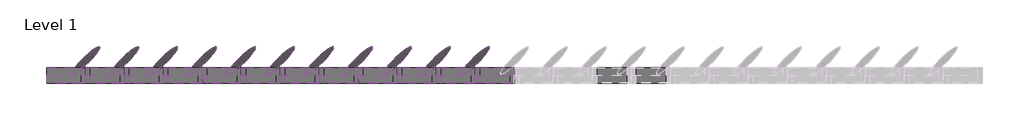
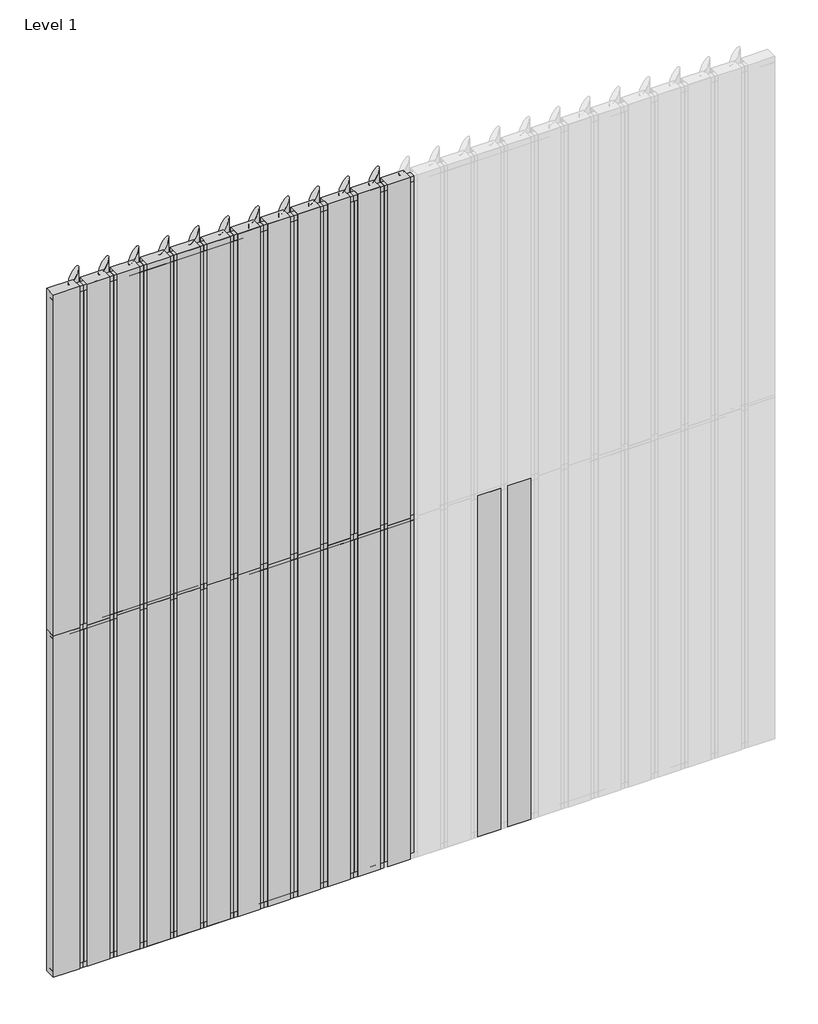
# One storey, part 1 of 2: 57 members, 50 plates.
"""IFC4 building model written with IfcOpenShell, lengths in millimetres."""

from ifc_helpers import new_model, si_unit, origin, place, context, project, spatial, transform, mapped, element, save
from components import rectangular_mullion_dafef153, rectangular_mullion_eeaea343, rectangular_mullion_b779000f, rectangular_mullion_552ac5bc, empty_system_panel_empty_c2e1ed41, empty_system_panel_empty_a27fa234, empty_system_panel_empty_93422e2e

model = new_model("IFC4")

# Units and contexts
model_context = context("Model", 3, world=origin())
ifc_project = project(units=[si_unit("LENGTHUNIT", "METRE", prefix="MILLI")], contexts=[model_context])

# Site, building, storey
site = spatial("IfcSite", under=ifc_project)
building = spatial("IfcBuilding", under=site)
storey = spatial("IfcBuildingStorey", under=building, Name="Level 1", Elevation=0.0)

# Members
placement = place(None, origin())
rectangular_mullion_shape = rectangular_mullion_dafef153(model_context)
element("IfcMember", 1, ObjectType="Rectangular Mullion : RSen_21_CWM_blade - 250 ellips - 45°_gen_duco projects", at=placement, inside=storey, context=model_context, shape_type="MappedRepresentation", body=[
    mapped(rectangular_mullion_shape, transform((2750.0, 3000.0, 0.0), x_axis=(-1.0, 0.0, 0.0), y_axis=(0.0, 1.0, 0.0), z_axis=(0.0, 0.0, -1.0))),
])
element("IfcMember", 2, ObjectType="Rectangular Mullion : RSen_21_CWM_blade - 250 ellips - 45°_gen_duco projects", at=placement, inside=storey, context=model_context, shape_type="MappedRepresentation", body=[
    mapped(rectangular_mullion_shape, transform((2500.0, 3000.0, 0.0), x_axis=(-1.0, 0.0, 0.0), y_axis=(0.0, 1.0, 0.0), z_axis=(0.0, 0.0, -1.0))),
])
element("IfcMember", 3, ObjectType="Rectangular Mullion : RSen_21_CWM_blade - 250 ellips - 45°_gen_duco projects", at=placement, inside=storey, context=model_context, shape_type="MappedRepresentation", body=[
    mapped(rectangular_mullion_shape, transform((2250.0, 3000.0, 0.0), x_axis=(-1.0, 0.0, 0.0), y_axis=(0.0, 1.0, 0.0), z_axis=(0.0, 0.0, -1.0))),
])
element("IfcMember", 4, ObjectType="Rectangular Mullion : RSen_21_CWM_blade - 250 ellips - 45°_gen_duco projects", at=placement, inside=storey, context=model_context, shape_type="MappedRepresentation", body=[
    mapped(rectangular_mullion_shape, transform((2000.0, 3000.0, 0.0), x_axis=(-1.0, 0.0, 0.0), y_axis=(0.0, 1.0, 0.0), z_axis=(0.0, 0.0, -1.0))),
])
element("IfcMember", 5, ObjectType="Rectangular Mullion : RSen_21_CWM_blade - 250 ellips - 45°_gen_duco projects", at=placement, inside=storey, context=model_context, shape_type="MappedRepresentation", body=[
    mapped(rectangular_mullion_shape, transform((1750.0, 3000.0, 0.0), x_axis=(-1.0, 0.0, 0.0), y_axis=(0.0, 1.0, 0.0), z_axis=(0.0, 0.0, -1.0))),
])
element("IfcMember", 6, ObjectType="Rectangular Mullion : RSen_21_CWM_blade - 250 ellips - 45°_gen_duco projects", at=placement, inside=storey, context=model_context, shape_type="MappedRepresentation", body=[
    mapped(rectangular_mullion_shape, transform((1500.0, 3000.0, 0.0), x_axis=(-1.0, 0.0, 0.0), y_axis=(0.0, 1.0, 0.0), z_axis=(0.0, 0.0, -1.0))),
])
element("IfcMember", 7, ObjectType="Rectangular Mullion : RSen_21_CWM_blade - 250 ellips - 45°_gen_duco projects", at=placement, inside=storey, context=model_context, shape_type="MappedRepresentation", body=[
    mapped(rectangular_mullion_shape, transform((1250.0, 3000.0, 0.0), x_axis=(-1.0, 0.0, 0.0), y_axis=(0.0, 1.0, 0.0), z_axis=(0.0, 0.0, -1.0))),
])
element("IfcMember", 8, ObjectType="Rectangular Mullion : RSen_21_CWM_blade - 250 ellips - 45°_gen_duco projects", at=placement, inside=storey, context=model_context, shape_type="MappedRepresentation", body=[
    mapped(rectangular_mullion_shape, transform((1000.0, 3000.0, 0.0), x_axis=(-1.0, 0.0, 0.0), y_axis=(0.0, 1.0, 0.0), z_axis=(0.0, 0.0, -1.0))),
])
element("IfcMember", 9, ObjectType="Rectangular Mullion : RSen_21_CWM_blade - 250 ellips - 45°_gen_duco projects", at=placement, inside=storey, context=model_context, shape_type="MappedRepresentation", body=[
    mapped(rectangular_mullion_shape, transform((750.0, 3000.0, 0.0), x_axis=(-1.0, 0.0, 0.0), y_axis=(0.0, 1.0, 0.0), z_axis=(0.0, 0.0, -1.0))),
])
element("IfcMember", 10, ObjectType="Rectangular Mullion : RSen_21_CWM_blade - 250 ellips - 45°_gen_duco projects", at=placement, inside=storey, context=model_context, shape_type="MappedRepresentation", body=[
    mapped(rectangular_mullion_shape, transform((500.0, 3000.0, 0.0), x_axis=(-1.0, 0.0, 0.0), y_axis=(0.0, 1.0, 0.0), z_axis=(0.0, 0.0, -1.0))),
])
element("IfcMember", 11, ObjectType="Rectangular Mullion : RSen_21_CWM_blade - 250 ellips - 45°_gen_duco projects", at=placement, inside=storey, context=model_context, shape_type="MappedRepresentation", body=[
    mapped(rectangular_mullion_shape, transform((250.0, 3000.0, 0.0), x_axis=(-1.0, 0.0, 0.0), y_axis=(0.0, 1.0, 0.0), z_axis=(0.0, 0.0, -1.0))),
])
element("IfcMember", 12, ObjectType="Rectangular Mullion : RSen_21_CWM_blade - 250 ellips - 45°_gen_duco projects", at=placement, inside=storey, context=model_context, shape_type="MappedRepresentation", body=[
    mapped(rectangular_mullion_shape, transform((2750.0, 3000.0, 3000.0), x_axis=(-1.0, 0.0, 0.0), y_axis=(0.0, 1.0, 0.0), z_axis=(0.0, 0.0, -1.0))),
])
element("IfcMember", 13, ObjectType="Rectangular Mullion : RSen_21_CWM_blade - 250 ellips - 45°_gen_duco projects", at=placement, inside=storey, context=model_context, shape_type="MappedRepresentation", body=[
    mapped(rectangular_mullion_shape, transform((2500.0, 3000.0, 3000.0), x_axis=(-1.0, 0.0, 0.0), y_axis=(0.0, 1.0, 0.0), z_axis=(0.0, 0.0, -1.0))),
])
element("IfcMember", 14, ObjectType="Rectangular Mullion : RSen_21_CWM_blade - 250 ellips - 45°_gen_duco projects", at=placement, inside=storey, context=model_context, shape_type="MappedRepresentation", body=[
    mapped(rectangular_mullion_shape, transform((2250.0, 3000.0, 3000.0), x_axis=(-1.0, 0.0, 0.0), y_axis=(0.0, 1.0, 0.0), z_axis=(0.0, 0.0, -1.0))),
])
element("IfcMember", 15, ObjectType="Rectangular Mullion : RSen_21_CWM_blade - 250 ellips - 45°_gen_duco projects", at=placement, inside=storey, context=model_context, shape_type="MappedRepresentation", body=[
    mapped(rectangular_mullion_shape, transform((2000.0, 3000.0, 3000.0), x_axis=(-1.0, 0.0, 0.0), y_axis=(0.0, 1.0, 0.0), z_axis=(0.0, 0.0, -1.0))),
])
element("IfcMember", 16, ObjectType="Rectangular Mullion : RSen_21_CWM_blade - 250 ellips - 45°_gen_duco projects", at=placement, inside=storey, context=model_context, shape_type="MappedRepresentation", body=[
    mapped(rectangular_mullion_shape, transform((1750.0, 3000.0, 3000.0), x_axis=(-1.0, 0.0, 0.0), y_axis=(0.0, 1.0, 0.0), z_axis=(0.0, 0.0, -1.0))),
])
element("IfcMember", 17, ObjectType="Rectangular Mullion : RSen_21_CWM_blade - 250 ellips - 45°_gen_duco projects", at=placement, inside=storey, context=model_context, shape_type="MappedRepresentation", body=[
    mapped(rectangular_mullion_shape, transform((1500.0, 3000.0, 3000.0), x_axis=(-1.0, 0.0, 0.0), y_axis=(0.0, 1.0, 0.0), z_axis=(0.0, 0.0, -1.0))),
])
element("IfcMember", 18, ObjectType="Rectangular Mullion : RSen_21_CWM_blade - 250 ellips - 45°_gen_duco projects", at=placement, inside=storey, context=model_context, shape_type="MappedRepresentation", body=[
    mapped(rectangular_mullion_shape, transform((1250.0, 3000.0, 3000.0), x_axis=(-1.0, 0.0, 0.0), y_axis=(0.0, 1.0, 0.0), z_axis=(0.0, 0.0, -1.0))),
])
element("IfcMember", 19, ObjectType="Rectangular Mullion : RSen_21_CWM_blade - 250 ellips - 45°_gen_duco projects", at=placement, inside=storey, context=model_context, shape_type="MappedRepresentation", body=[
    mapped(rectangular_mullion_shape, transform((1000.0, 3000.0, 3000.0), x_axis=(-1.0, 0.0, 0.0), y_axis=(0.0, 1.0, 0.0), z_axis=(0.0, 0.0, -1.0))),
])
element("IfcMember", 20, ObjectType="Rectangular Mullion : RSen_21_CWM_blade - 250 ellips - 45°_gen_duco projects", at=placement, inside=storey, context=model_context, shape_type="MappedRepresentation", body=[
    mapped(rectangular_mullion_shape, transform((750.0, 3000.0, 3000.0), x_axis=(-1.0, 0.0, 0.0), y_axis=(0.0, 1.0, 0.0), z_axis=(0.0, 0.0, -1.0))),
])
element("IfcMember", 21, ObjectType="Rectangular Mullion : RSen_21_CWM_blade - 250 ellips - 45°_gen_duco projects", at=placement, inside=storey, context=model_context, shape_type="MappedRepresentation", body=[
    mapped(rectangular_mullion_shape, transform((500.0, 3000.0, 3000.0), x_axis=(-1.0, 0.0, 0.0), y_axis=(0.0, 1.0, 0.0), z_axis=(0.0, 0.0, -1.0))),
])
element("IfcMember", 22, ObjectType="Rectangular Mullion : RSen_21_CWM_blade - 250 ellips - 45°_gen_duco projects", at=placement, inside=storey, context=model_context, shape_type="MappedRepresentation", body=[
    mapped(rectangular_mullion_shape, transform((250.0, 3000.0, 3000.0), x_axis=(-1.0, 0.0, 0.0), y_axis=(0.0, 1.0, 0.0), z_axis=(0.0, 0.0, -1.0))),
])
rectangular_mullion_2_shape = rectangular_mullion_eeaea343(model_context)
element("IfcMember", 23, ObjectType="Rectangular Mullion : RSen_21_CWM_support profile 50x50 - left_gen_duco projects", at=placement, inside=storey, context=model_context, shape_type="MappedRepresentation", body=[
    mapped(rectangular_mullion_2_shape, transform((0.0, 3000.0, 6000.0), x_axis=(0.0, 0.0, 1.0), y_axis=(0.0, 1.0, 0.0), z_axis=(-1.0, 0.0, 0.0))),
])
element("IfcMember", 24, ObjectType="Rectangular Mullion : RSen_21_CWM_support profile 50x50 - left_gen_duco projects", at=placement, inside=storey, context=model_context, shape_type="MappedRepresentation", body=[
    mapped(rectangular_mullion_2_shape, transform((2750.0, 3000.0, 6000.0), x_axis=(0.0, 0.0, 1.0), y_axis=(0.0, 1.0, 0.0), z_axis=(-1.0, 0.0, 0.0))),
])
element("IfcMember", 25, ObjectType="Rectangular Mullion : RSen_21_CWM_support profile 50x50 - left_gen_duco projects", at=placement, inside=storey, context=model_context, shape_type="MappedRepresentation", body=[
    mapped(rectangular_mullion_2_shape, transform((2500.0, 3000.0, 6000.0), x_axis=(0.0, 0.0, 1.0), y_axis=(0.0, 1.0, 0.0), z_axis=(-1.0, 0.0, 0.0))),
])
element("IfcMember", 26, ObjectType="Rectangular Mullion : RSen_21_CWM_support profile 50x50 - left_gen_duco projects", at=placement, inside=storey, context=model_context, shape_type="MappedRepresentation", body=[
    mapped(rectangular_mullion_2_shape, transform((2250.0, 3000.0, 6000.0), x_axis=(0.0, 0.0, 1.0), y_axis=(0.0, 1.0, 0.0), z_axis=(-1.0, 0.0, 0.0))),
])
element("IfcMember", 27, ObjectType="Rectangular Mullion : RSen_21_CWM_support profile 50x50 - left_gen_duco projects", at=placement, inside=storey, context=model_context, shape_type="MappedRepresentation", body=[
    mapped(rectangular_mullion_2_shape, transform((2000.0, 3000.0, 6000.0), x_axis=(0.0, 0.0, 1.0), y_axis=(0.0, 1.0, 0.0), z_axis=(-1.0, 0.0, 0.0))),
])
element("IfcMember", 28, ObjectType="Rectangular Mullion : RSen_21_CWM_support profile 50x50 - left_gen_duco projects", at=placement, inside=storey, context=model_context, shape_type="MappedRepresentation", body=[
    mapped(rectangular_mullion_2_shape, transform((1750.0, 3000.0, 6000.0), x_axis=(0.0, 0.0, 1.0), y_axis=(0.0, 1.0, 0.0), z_axis=(-1.0, 0.0, 0.0))),
])
element("IfcMember", 29, ObjectType="Rectangular Mullion : RSen_21_CWM_support profile 50x50 - left_gen_duco projects", at=placement, inside=storey, context=model_context, shape_type="MappedRepresentation", body=[
    mapped(rectangular_mullion_2_shape, transform((1500.0, 3000.0, 6000.0), x_axis=(0.0, 0.0, 1.0), y_axis=(0.0, 1.0, 0.0), z_axis=(-1.0, 0.0, 0.0))),
])
element("IfcMember", 30, ObjectType="Rectangular Mullion : RSen_21_CWM_support profile 50x50 - left_gen_duco projects", at=placement, inside=storey, context=model_context, shape_type="MappedRepresentation", body=[
    mapped(rectangular_mullion_2_shape, transform((1250.0, 3000.0, 6000.0), x_axis=(0.0, 0.0, 1.0), y_axis=(0.0, 1.0, 0.0), z_axis=(-1.0, 0.0, 0.0))),
])
element("IfcMember", 31, ObjectType="Rectangular Mullion : RSen_21_CWM_support profile 50x50 - left_gen_duco projects", at=placement, inside=storey, context=model_context, shape_type="MappedRepresentation", body=[
    mapped(rectangular_mullion_2_shape, transform((1000.0, 3000.0, 6000.0), x_axis=(0.0, 0.0, 1.0), y_axis=(0.0, 1.0, 0.0), z_axis=(-1.0, 0.0, 0.0))),
])
element("IfcMember", 32, ObjectType="Rectangular Mullion : RSen_21_CWM_support profile 50x50 - left_gen_duco projects", at=placement, inside=storey, context=model_context, shape_type="MappedRepresentation", body=[
    mapped(rectangular_mullion_2_shape, transform((750.0, 3000.0, 6000.0), x_axis=(0.0, 0.0, 1.0), y_axis=(0.0, 1.0, 0.0), z_axis=(-1.0, 0.0, 0.0))),
])
element("IfcMember", 33, ObjectType="Rectangular Mullion : RSen_21_CWM_support profile 50x50 - left_gen_duco projects", at=placement, inside=storey, context=model_context, shape_type="MappedRepresentation", body=[
    mapped(rectangular_mullion_2_shape, transform((500.0, 3000.0, 6000.0), x_axis=(0.0, 0.0, 1.0), y_axis=(0.0, 1.0, 0.0), z_axis=(-1.0, 0.0, 0.0))),
])
element("IfcMember", 34, ObjectType="Rectangular Mullion : RSen_21_CWM_support profile 50x50 - left_gen_duco projects", at=placement, inside=storey, context=model_context, shape_type="MappedRepresentation", body=[
    mapped(rectangular_mullion_2_shape, transform((250.0, 3000.0, 6000.0), x_axis=(0.0, 0.0, 1.0), y_axis=(0.0, 1.0, 0.0), z_axis=(-1.0, 0.0, 0.0))),
])
rectangular_mullion_3_shape = rectangular_mullion_b779000f(model_context)
element("IfcMember", 35, ObjectType="Rectangular Mullion : RSen_21_CWM_support profile 50x50 - right_gen_duco projects", at=placement, inside=storey, context=model_context, shape_type="MappedRepresentation", body=[
    mapped(rectangular_mullion_3_shape, transform((2750.0, 3000.0, 0.0), x_axis=(0.0, 0.0, -1.0), y_axis=(0.0, 1.0, 0.0), z_axis=(1.0, 0.0, 0.0))),
])
element("IfcMember", 36, ObjectType="Rectangular Mullion : RSen_21_CWM_support profile 50x50 - right_gen_duco projects", at=placement, inside=storey, context=model_context, shape_type="MappedRepresentation", body=[
    mapped(rectangular_mullion_3_shape, transform((2500.0, 3000.0, 0.0), x_axis=(0.0, 0.0, -1.0), y_axis=(0.0, 1.0, 0.0), z_axis=(1.0, 0.0, 0.0))),
])
element("IfcMember", 37, ObjectType="Rectangular Mullion : RSen_21_CWM_support profile 50x50 - right_gen_duco projects", at=placement, inside=storey, context=model_context, shape_type="MappedRepresentation", body=[
    mapped(rectangular_mullion_3_shape, transform((2250.0, 3000.0, 0.0), x_axis=(0.0, 0.0, -1.0), y_axis=(0.0, 1.0, 0.0), z_axis=(1.0, 0.0, 0.0))),
])
element("IfcMember", 38, ObjectType="Rectangular Mullion : RSen_21_CWM_support profile 50x50 - right_gen_duco projects", at=placement, inside=storey, context=model_context, shape_type="MappedRepresentation", body=[
    mapped(rectangular_mullion_3_shape, transform((2000.0, 3000.0, 0.0), x_axis=(0.0, 0.0, -1.0), y_axis=(0.0, 1.0, 0.0), z_axis=(1.0, 0.0, 0.0))),
])
element("IfcMember", 39, ObjectType="Rectangular Mullion : RSen_21_CWM_support profile 50x50 - right_gen_duco projects", at=placement, inside=storey, context=model_context, shape_type="MappedRepresentation", body=[
    mapped(rectangular_mullion_3_shape, transform((1750.0, 3000.0, 0.0), x_axis=(0.0, 0.0, -1.0), y_axis=(0.0, 1.0, 0.0), z_axis=(1.0, 0.0, 0.0))),
])
element("IfcMember", 40, ObjectType="Rectangular Mullion : RSen_21_CWM_support profile 50x50 - right_gen_duco projects", at=placement, inside=storey, context=model_context, shape_type="MappedRepresentation", body=[
    mapped(rectangular_mullion_3_shape, transform((1500.0, 3000.0, 0.0), x_axis=(0.0, 0.0, -1.0), y_axis=(0.0, 1.0, 0.0), z_axis=(1.0, 0.0, 0.0))),
])
element("IfcMember", 41, ObjectType="Rectangular Mullion : RSen_21_CWM_support profile 50x50 - right_gen_duco projects", at=placement, inside=storey, context=model_context, shape_type="MappedRepresentation", body=[
    mapped(rectangular_mullion_3_shape, transform((1250.0, 3000.0, 0.0), x_axis=(0.0, 0.0, -1.0), y_axis=(0.0, 1.0, 0.0), z_axis=(1.0, 0.0, 0.0))),
])
element("IfcMember", 42, ObjectType="Rectangular Mullion : RSen_21_CWM_support profile 50x50 - right_gen_duco projects", at=placement, inside=storey, context=model_context, shape_type="MappedRepresentation", body=[
    mapped(rectangular_mullion_3_shape, transform((1000.0, 3000.0, 0.0), x_axis=(0.0, 0.0, -1.0), y_axis=(0.0, 1.0, 0.0), z_axis=(1.0, 0.0, 0.0))),
])
element("IfcMember", 43, ObjectType="Rectangular Mullion : RSen_21_CWM_support profile 50x50 - right_gen_duco projects", at=placement, inside=storey, context=model_context, shape_type="MappedRepresentation", body=[
    mapped(rectangular_mullion_3_shape, transform((750.0, 3000.0, 0.0), x_axis=(0.0, 0.0, -1.0), y_axis=(0.0, 1.0, 0.0), z_axis=(1.0, 0.0, 0.0))),
])
element("IfcMember", 44, ObjectType="Rectangular Mullion : RSen_21_CWM_support profile 50x50 - right_gen_duco projects", at=placement, inside=storey, context=model_context, shape_type="MappedRepresentation", body=[
    mapped(rectangular_mullion_3_shape, transform((500.0, 3000.0, 0.0), x_axis=(0.0, 0.0, -1.0), y_axis=(0.0, 1.0, 0.0), z_axis=(1.0, 0.0, 0.0))),
])
element("IfcMember", 45, ObjectType="Rectangular Mullion : RSen_21_CWM_support profile 50x50 - right_gen_duco projects", at=placement, inside=storey, context=model_context, shape_type="MappedRepresentation", body=[
    mapped(rectangular_mullion_3_shape, transform((250.0, 3000.0, 0.0), x_axis=(0.0, 0.0, -1.0), y_axis=(0.0, 1.0, 0.0), z_axis=(1.0, 0.0, 0.0))),
])
rectangular_mullion_4_shape = rectangular_mullion_552ac5bc(model_context)
element("IfcMember", 46, ObjectType="Rectangular Mullion : RSen_21_CWM_support profile 50x50_gen_duco projects", at=placement, inside=storey, context=model_context, shape_type="MappedRepresentation", body=[
    mapped(rectangular_mullion_4_shape, transform((2750.0, 3000.0, 3000.0), x_axis=(0.0, 0.0, 1.0), y_axis=(0.0, 1.0, 0.0), z_axis=(-1.0, 0.0, 0.0))),
])
element("IfcMember", 47, ObjectType="Rectangular Mullion : RSen_21_CWM_support profile 50x50_gen_duco projects", at=placement, inside=storey, context=model_context, shape_type="MappedRepresentation", body=[
    mapped(rectangular_mullion_4_shape, transform((2500.0, 3000.0, 3000.0), x_axis=(0.0, 0.0, 1.0), y_axis=(0.0, 1.0, 0.0), z_axis=(-1.0, 0.0, 0.0))),
])
element("IfcMember", 48, ObjectType="Rectangular Mullion : RSen_21_CWM_support profile 50x50_gen_duco projects", at=placement, inside=storey, context=model_context, shape_type="MappedRepresentation", body=[
    mapped(rectangular_mullion_4_shape, transform((2250.0, 3000.0, 3000.0), x_axis=(0.0, 0.0, 1.0), y_axis=(0.0, 1.0, 0.0), z_axis=(-1.0, 0.0, 0.0))),
])
element("IfcMember", 49, ObjectType="Rectangular Mullion : RSen_21_CWM_support profile 50x50_gen_duco projects", at=placement, inside=storey, context=model_context, shape_type="MappedRepresentation", body=[
    mapped(rectangular_mullion_4_shape, transform((2000.0, 3000.0, 3000.0), x_axis=(0.0, 0.0, 1.0), y_axis=(0.0, 1.0, 0.0), z_axis=(-1.0, 0.0, 0.0))),
])
element("IfcMember", 50, ObjectType="Rectangular Mullion : RSen_21_CWM_support profile 50x50_gen_duco projects", at=placement, inside=storey, context=model_context, shape_type="MappedRepresentation", body=[
    mapped(rectangular_mullion_4_shape, transform((1750.0, 3000.0, 3000.0), x_axis=(0.0, 0.0, 1.0), y_axis=(0.0, 1.0, 0.0), z_axis=(-1.0, 0.0, 0.0))),
])
element("IfcMember", 51, ObjectType="Rectangular Mullion : RSen_21_CWM_support profile 50x50_gen_duco projects", at=placement, inside=storey, context=model_context, shape_type="MappedRepresentation", body=[
    mapped(rectangular_mullion_4_shape, transform((1500.0, 3000.0, 3000.0), x_axis=(0.0, 0.0, 1.0), y_axis=(0.0, 1.0, 0.0), z_axis=(-1.0, 0.0, 0.0))),
])
element("IfcMember", 52, ObjectType="Rectangular Mullion : RSen_21_CWM_support profile 50x50_gen_duco projects", at=placement, inside=storey, context=model_context, shape_type="MappedRepresentation", body=[
    mapped(rectangular_mullion_4_shape, transform((1250.0, 3000.0, 3000.0), x_axis=(0.0, 0.0, 1.0), y_axis=(0.0, 1.0, 0.0), z_axis=(-1.0, 0.0, 0.0))),
])
element("IfcMember", 53, ObjectType="Rectangular Mullion : RSen_21_CWM_support profile 50x50_gen_duco projects", at=placement, inside=storey, context=model_context, shape_type="MappedRepresentation", body=[
    mapped(rectangular_mullion_4_shape, transform((1000.0, 3000.0, 3000.0), x_axis=(0.0, 0.0, 1.0), y_axis=(0.0, 1.0, 0.0), z_axis=(-1.0, 0.0, 0.0))),
])
element("IfcMember", 54, ObjectType="Rectangular Mullion : RSen_21_CWM_support profile 50x50_gen_duco projects", at=placement, inside=storey, context=model_context, shape_type="MappedRepresentation", body=[
    mapped(rectangular_mullion_4_shape, transform((750.0, 3000.0, 3000.0), x_axis=(0.0, 0.0, 1.0), y_axis=(0.0, 1.0, 0.0), z_axis=(-1.0, 0.0, 0.0))),
])
element("IfcMember", 55, ObjectType="Rectangular Mullion : RSen_21_CWM_support profile 50x50_gen_duco projects", at=placement, inside=storey, context=model_context, shape_type="MappedRepresentation", body=[
    mapped(rectangular_mullion_4_shape, transform((500.0, 3000.0, 3000.0), x_axis=(0.0, 0.0, 1.0), y_axis=(0.0, 1.0, 0.0), z_axis=(-1.0, 0.0, 0.0))),
])
element("IfcMember", 56, ObjectType="Rectangular Mullion : RSen_21_CWM_support profile 50x50_gen_duco projects", at=placement, inside=storey, context=model_context, shape_type="MappedRepresentation", body=[
    mapped(rectangular_mullion_4_shape, transform((250.0, 3000.0, 3000.0), x_axis=(0.0, 0.0, 1.0), y_axis=(0.0, 1.0, 0.0), z_axis=(-1.0, 0.0, 0.0))),
])
element("IfcMember", 57, ObjectType="Rectangular Mullion : RSen_21_CWM_support profile 50x50_gen_duco projects", at=placement, inside=storey, context=model_context, shape_type="MappedRepresentation", body=[
    mapped(rectangular_mullion_4_shape, transform((0.0, 3000.0, 3000.0), x_axis=(0.0, 0.0, 1.0), y_axis=(0.0, 1.0, 0.0), z_axis=(-1.0, 0.0, 0.0))),
])

# Plates
empty_system_panel_empty_shape = empty_system_panel_empty_c2e1ed41(model_context)
element("IfcPlate", 58, ObjectType="Empty System Panel : Empty", at=placement, inside=storey, context=model_context, shape_type="MappedRepresentation", body=[
    mapped(empty_system_panel_empty_shape, transform((109.6204275, 3000.0, 0.0), x_axis=(-1.0, 0.0, 0.0), y_axis=(0.0, -1.0, 0.0), z_axis=(0.0, 0.0, 1.0))),
])
element("IfcPlate", 59, ObjectType="Empty System Panel : Empty", at=placement, inside=storey, context=model_context, shape_type="MappedRepresentation", body=[
    mapped(empty_system_panel_empty_shape, transform((109.6204275, 3000.0, 3000.0), x_axis=(-1.0, 0.0, 0.0), y_axis=(0.0, -1.0, 0.0), z_axis=(0.0, 0.0, 1.0))),
])
empty_system_panel_empty_2_shape = empty_system_panel_empty_a27fa234(model_context)
element("IfcPlate", 60, ObjectType="Empty System Panel : Empty", at=placement, inside=storey, context=model_context, shape_type="MappedRepresentation", body=[
    mapped(empty_system_panel_empty_2_shape, transform((3875.0, 3000.0, 0.0), x_axis=(-1.0, 0.0, 0.0), y_axis=(0.0, -1.0, 0.0), z_axis=(0.0, 0.0, 1.0))),
])
element("IfcPlate", 61, ObjectType="Empty System Panel : Empty", at=placement, inside=storey, context=model_context, shape_type="MappedRepresentation", body=[
    mapped(empty_system_panel_empty_2_shape, transform((3625.0, 3000.0, 0.0), x_axis=(-1.0, 0.0, 0.0), y_axis=(0.0, -1.0, 0.0), z_axis=(0.0, 0.0, 1.0))),
])
element("IfcPlate", 62, ObjectType="Empty System Panel : Empty", at=placement, inside=storey, context=model_context, shape_type="MappedRepresentation", body=[
    mapped(empty_system_panel_empty_2_shape, transform((2875.0, 3000.0, 0.0), x_axis=(-1.0, 0.0, 0.0), y_axis=(0.0, -1.0, 0.0), z_axis=(0.0, 0.0, 1.0))),
])
element("IfcPlate", 63, ObjectType="Empty System Panel : Empty", at=placement, inside=storey, context=model_context, shape_type="MappedRepresentation", body=[
    mapped(empty_system_panel_empty_2_shape, transform((2625.0, 3000.0, 0.0), x_axis=(-1.0, 0.0, 0.0), y_axis=(0.0, -1.0, 0.0), z_axis=(0.0, 0.0, 1.0))),
])
element("IfcPlate", 64, ObjectType="Empty System Panel : Empty", at=placement, inside=storey, context=model_context, shape_type="MappedRepresentation", body=[
    mapped(empty_system_panel_empty_2_shape, transform((2375.0, 3000.0, 0.0), x_axis=(-1.0, 0.0, 0.0), y_axis=(0.0, -1.0, 0.0), z_axis=(0.0, 0.0, 1.0))),
])
element("IfcPlate", 65, ObjectType="Empty System Panel : Empty", at=placement, inside=storey, context=model_context, shape_type="MappedRepresentation", body=[
    mapped(empty_system_panel_empty_2_shape, transform((2125.0, 3000.0, 0.0), x_axis=(-1.0, 0.0, 0.0), y_axis=(0.0, -1.0, 0.0), z_axis=(0.0, 0.0, 1.0))),
])
element("IfcPlate", 66, ObjectType="Empty System Panel : Empty", at=placement, inside=storey, context=model_context, shape_type="MappedRepresentation", body=[
    mapped(empty_system_panel_empty_2_shape, transform((1875.0, 3000.0, 0.0), x_axis=(-1.0, 0.0, 0.0), y_axis=(0.0, -1.0, 0.0), z_axis=(0.0, 0.0, 1.0))),
])
element("IfcPlate", 67, ObjectType="Empty System Panel : Empty", at=placement, inside=storey, context=model_context, shape_type="MappedRepresentation", body=[
    mapped(empty_system_panel_empty_2_shape, transform((1625.0, 3000.0, 0.0), x_axis=(-1.0, 0.0, 0.0), y_axis=(0.0, -1.0, 0.0), z_axis=(0.0, 0.0, 1.0))),
])
element("IfcPlate", 68, ObjectType="Empty System Panel : Empty", at=placement, inside=storey, context=model_context, shape_type="MappedRepresentation", body=[
    mapped(empty_system_panel_empty_2_shape, transform((1375.0, 3000.0, 0.0), x_axis=(-1.0, 0.0, 0.0), y_axis=(0.0, -1.0, 0.0), z_axis=(0.0, 0.0, 1.0))),
])
element("IfcPlate", 69, ObjectType="Empty System Panel : Empty", at=placement, inside=storey, context=model_context, shape_type="MappedRepresentation", body=[
    mapped(empty_system_panel_empty_2_shape, transform((1125.0, 3000.0, 0.0), x_axis=(-1.0, 0.0, 0.0), y_axis=(0.0, -1.0, 0.0), z_axis=(0.0, 0.0, 1.0))),
])
element("IfcPlate", 70, ObjectType="Empty System Panel : Empty", at=placement, inside=storey, context=model_context, shape_type="MappedRepresentation", body=[
    mapped(empty_system_panel_empty_2_shape, transform((875.0, 3000.0, 0.0), x_axis=(-1.0, 0.0, 0.0), y_axis=(0.0, -1.0, 0.0), z_axis=(0.0, 0.0, 1.0))),
])
element("IfcPlate", 71, ObjectType="Empty System Panel : Empty", at=placement, inside=storey, context=model_context, shape_type="MappedRepresentation", body=[
    mapped(empty_system_panel_empty_2_shape, transform((625.0, 3000.0, 0.0), x_axis=(-1.0, 0.0, 0.0), y_axis=(0.0, -1.0, 0.0), z_axis=(0.0, 0.0, 1.0))),
])
element("IfcPlate", 72, ObjectType="Empty System Panel : Empty", at=placement, inside=storey, context=model_context, shape_type="MappedRepresentation", body=[
    mapped(empty_system_panel_empty_2_shape, transform((375.0, 3000.0, 0.0), x_axis=(-1.0, 0.0, 0.0), y_axis=(0.0, -1.0, 0.0), z_axis=(0.0, 0.0, 1.0))),
])
element("IfcPlate", 73, ObjectType="Empty System Panel : Empty", at=placement, inside=storey, context=model_context, shape_type="MappedRepresentation", body=[
    mapped(empty_system_panel_empty_2_shape, transform((2875.0, 3000.0, 3000.0), x_axis=(-1.0, 0.0, 0.0), y_axis=(0.0, -1.0, 0.0), z_axis=(0.0, 0.0, 1.0))),
])
element("IfcPlate", 74, ObjectType="Empty System Panel : Empty", at=placement, inside=storey, context=model_context, shape_type="MappedRepresentation", body=[
    mapped(empty_system_panel_empty_2_shape, transform((2625.0, 3000.0, 3000.0), x_axis=(-1.0, 0.0, 0.0), y_axis=(0.0, -1.0, 0.0), z_axis=(0.0, 0.0, 1.0))),
])
element("IfcPlate", 75, ObjectType="Empty System Panel : Empty", at=placement, inside=storey, context=model_context, shape_type="MappedRepresentation", body=[
    mapped(empty_system_panel_empty_2_shape, transform((2375.0, 3000.0, 3000.0), x_axis=(-1.0, 0.0, 0.0), y_axis=(0.0, -1.0, 0.0), z_axis=(0.0, 0.0, 1.0))),
])
element("IfcPlate", 76, ObjectType="Empty System Panel : Empty", at=placement, inside=storey, context=model_context, shape_type="MappedRepresentation", body=[
    mapped(empty_system_panel_empty_2_shape, transform((2125.0, 3000.0, 3000.0), x_axis=(-1.0, 0.0, 0.0), y_axis=(0.0, -1.0, 0.0), z_axis=(0.0, 0.0, 1.0))),
])
element("IfcPlate", 77, ObjectType="Empty System Panel : Empty", at=placement, inside=storey, context=model_context, shape_type="MappedRepresentation", body=[
    mapped(empty_system_panel_empty_2_shape, transform((1875.0, 3000.0, 3000.0), x_axis=(-1.0, 0.0, 0.0), y_axis=(0.0, -1.0, 0.0), z_axis=(0.0, 0.0, 1.0))),
])
element("IfcPlate", 78, ObjectType="Empty System Panel : Empty", at=placement, inside=storey, context=model_context, shape_type="MappedRepresentation", body=[
    mapped(empty_system_panel_empty_2_shape, transform((1625.0, 3000.0, 3000.0), x_axis=(-1.0, 0.0, 0.0), y_axis=(0.0, -1.0, 0.0), z_axis=(0.0, 0.0, 1.0))),
])
element("IfcPlate", 79, ObjectType="Empty System Panel : Empty", at=placement, inside=storey, context=model_context, shape_type="MappedRepresentation", body=[
    mapped(empty_system_panel_empty_2_shape, transform((1375.0, 3000.0, 3000.0), x_axis=(-1.0, 0.0, 0.0), y_axis=(0.0, -1.0, 0.0), z_axis=(0.0, 0.0, 1.0))),
])
element("IfcPlate", 80, ObjectType="Empty System Panel : Empty", at=placement, inside=storey, context=model_context, shape_type="MappedRepresentation", body=[
    mapped(empty_system_panel_empty_2_shape, transform((1125.0, 3000.0, 3000.0), x_axis=(-1.0, 0.0, 0.0), y_axis=(0.0, -1.0, 0.0), z_axis=(0.0, 0.0, 1.0))),
])
element("IfcPlate", 81, ObjectType="Empty System Panel : Empty", at=placement, inside=storey, context=model_context, shape_type="MappedRepresentation", body=[
    mapped(empty_system_panel_empty_2_shape, transform((875.0, 3000.0, 3000.0), x_axis=(-1.0, 0.0, 0.0), y_axis=(0.0, -1.0, 0.0), z_axis=(0.0, 0.0, 1.0))),
])
element("IfcPlate", 82, ObjectType="Empty System Panel : Empty", at=placement, inside=storey, context=model_context, shape_type="MappedRepresentation", body=[
    mapped(empty_system_panel_empty_2_shape, transform((625.0, 3000.0, 3000.0), x_axis=(-1.0, 0.0, 0.0), y_axis=(0.0, -1.0, 0.0), z_axis=(0.0, 0.0, 1.0))),
])
element("IfcPlate", 83, ObjectType="Empty System Panel : Empty", at=placement, inside=storey, context=model_context, shape_type="MappedRepresentation", body=[
    mapped(empty_system_panel_empty_2_shape, transform((375.0, 3000.0, 3000.0), x_axis=(-1.0, 0.0, 0.0), y_axis=(0.0, -1.0, 0.0), z_axis=(0.0, 0.0, 1.0))),
])
empty_system_panel_empty_3_shape = empty_system_panel_empty_93422e2e(model_context)
element("IfcPlate", 84, ObjectType="Empty System Panel : Empty", at=placement, inside=storey, context=model_context, shape_type="MappedRepresentation", body=[
    mapped(empty_system_panel_empty_3_shape, transform((2875.0, 3000.0, 50.0), x_axis=(-1.0, 0.0, 0.0), y_axis=(0.0, -1.0, 0.0), z_axis=(0.0, 0.0, 1.0))),
])
element("IfcPlate", 85, ObjectType="Empty System Panel : Empty", at=placement, inside=storey, context=model_context, shape_type="MappedRepresentation", body=[
    mapped(empty_system_panel_empty_3_shape, transform((2625.0, 3000.0, 50.0), x_axis=(-1.0, 0.0, 0.0), y_axis=(0.0, -1.0, 0.0), z_axis=(0.0, 0.0, 1.0))),
])
element("IfcPlate", 86, ObjectType="Empty System Panel : Empty", at=placement, inside=storey, context=model_context, shape_type="MappedRepresentation", body=[
    mapped(empty_system_panel_empty_3_shape, transform((2375.0, 3000.0, 50.0), x_axis=(-1.0, 0.0, 0.0), y_axis=(0.0, -1.0, 0.0), z_axis=(0.0, 0.0, 1.0))),
])
element("IfcPlate", 87, ObjectType="Empty System Panel : Empty", at=placement, inside=storey, context=model_context, shape_type="MappedRepresentation", body=[
    mapped(empty_system_panel_empty_3_shape, transform((2125.0, 3000.0, 50.0), x_axis=(-1.0, 0.0, 0.0), y_axis=(0.0, -1.0, 0.0), z_axis=(0.0, 0.0, 1.0))),
])
element("IfcPlate", 88, ObjectType="Empty System Panel : Empty", at=placement, inside=storey, context=model_context, shape_type="MappedRepresentation", body=[
    mapped(empty_system_panel_empty_3_shape, transform((1875.0, 3000.0, 50.0), x_axis=(-1.0, 0.0, 0.0), y_axis=(0.0, -1.0, 0.0), z_axis=(0.0, 0.0, 1.0))),
])
element("IfcPlate", 89, ObjectType="Empty System Panel : Empty", at=placement, inside=storey, context=model_context, shape_type="MappedRepresentation", body=[
    mapped(empty_system_panel_empty_3_shape, transform((1625.0, 3000.0, 50.0), x_axis=(-1.0, 0.0, 0.0), y_axis=(0.0, -1.0, 0.0), z_axis=(0.0, 0.0, 1.0))),
])
element("IfcPlate", 90, ObjectType="Empty System Panel : Empty", at=placement, inside=storey, context=model_context, shape_type="MappedRepresentation", body=[
    mapped(empty_system_panel_empty_3_shape, transform((1375.0, 3000.0, 50.0), x_axis=(-1.0, 0.0, 0.0), y_axis=(0.0, -1.0, 0.0), z_axis=(0.0, 0.0, 1.0))),
])
element("IfcPlate", 91, ObjectType="Empty System Panel : Empty", at=placement, inside=storey, context=model_context, shape_type="MappedRepresentation", body=[
    mapped(empty_system_panel_empty_3_shape, transform((1125.0, 3000.0, 50.0), x_axis=(-1.0, 0.0, 0.0), y_axis=(0.0, -1.0, 0.0), z_axis=(0.0, 0.0, 1.0))),
])
element("IfcPlate", 92, ObjectType="Empty System Panel : Empty", at=placement, inside=storey, context=model_context, shape_type="MappedRepresentation", body=[
    mapped(empty_system_panel_empty_3_shape, transform((875.0, 3000.0, 50.0), x_axis=(-1.0, 0.0, 0.0), y_axis=(0.0, -1.0, 0.0), z_axis=(0.0, 0.0, 1.0))),
])
element("IfcPlate", 93, ObjectType="Empty System Panel : Empty", at=placement, inside=storey, context=model_context, shape_type="MappedRepresentation", body=[
    mapped(empty_system_panel_empty_3_shape, transform((625.0, 3000.0, 50.0), x_axis=(-1.0, 0.0, 0.0), y_axis=(0.0, -1.0, 0.0), z_axis=(0.0, 0.0, 1.0))),
])
element("IfcPlate", 94, ObjectType="Empty System Panel : Empty", at=placement, inside=storey, context=model_context, shape_type="MappedRepresentation", body=[
    mapped(empty_system_panel_empty_3_shape, transform((375.0, 3000.0, 50.0), x_axis=(-1.0, 0.0, 0.0), y_axis=(0.0, -1.0, 0.0), z_axis=(0.0, 0.0, 1.0))),
])
element("IfcPlate", 95, ObjectType="Empty System Panel : Empty", at=placement, inside=storey, context=model_context, shape_type="MappedRepresentation", body=[
    mapped(empty_system_panel_empty_3_shape, transform((125.0, 3000.0, 50.0), x_axis=(-1.0, 0.0, 0.0), y_axis=(0.0, -1.0, 0.0), z_axis=(0.0, 0.0, 1.0))),
])
element("IfcPlate", 96, ObjectType="Empty System Panel : Empty", at=placement, inside=storey, context=model_context, shape_type="MappedRepresentation", body=[
    mapped(empty_system_panel_empty_3_shape, transform((2875.0, 3000.0, 3025.0), x_axis=(-1.0, 0.0, 0.0), y_axis=(0.0, -1.0, 0.0), z_axis=(0.0, 0.0, 1.0))),
])
element("IfcPlate", 97, ObjectType="Empty System Panel : Empty", at=placement, inside=storey, context=model_context, shape_type="MappedRepresentation", body=[
    mapped(empty_system_panel_empty_3_shape, transform((2625.0, 3000.0, 3025.0), x_axis=(-1.0, 0.0, 0.0), y_axis=(0.0, -1.0, 0.0), z_axis=(0.0, 0.0, 1.0))),
])
element("IfcPlate", 98, ObjectType="Empty System Panel : Empty", at=placement, inside=storey, context=model_context, shape_type="MappedRepresentation", body=[
    mapped(empty_system_panel_empty_3_shape, transform((2375.0, 3000.0, 3025.0), x_axis=(-1.0, 0.0, 0.0), y_axis=(0.0, -1.0, 0.0), z_axis=(0.0, 0.0, 1.0))),
])
element("IfcPlate", 99, ObjectType="Empty System Panel : Empty", at=placement, inside=storey, context=model_context, shape_type="MappedRepresentation", body=[
    mapped(empty_system_panel_empty_3_shape, transform((2125.0, 3000.0, 3025.0), x_axis=(-1.0, 0.0, 0.0), y_axis=(0.0, -1.0, 0.0), z_axis=(0.0, 0.0, 1.0))),
])
element("IfcPlate", 100, ObjectType="Empty System Panel : Empty", at=placement, inside=storey, context=model_context, shape_type="MappedRepresentation", body=[
    mapped(empty_system_panel_empty_3_shape, transform((1875.0, 3000.0, 3025.0), x_axis=(-1.0, 0.0, 0.0), y_axis=(0.0, -1.0, 0.0), z_axis=(0.0, 0.0, 1.0))),
])
element("IfcPlate", 101, ObjectType="Empty System Panel : Empty", at=placement, inside=storey, context=model_context, shape_type="MappedRepresentation", body=[
    mapped(empty_system_panel_empty_3_shape, transform((1625.0, 3000.0, 3025.0), x_axis=(-1.0, 0.0, 0.0), y_axis=(0.0, -1.0, 0.0), z_axis=(0.0, 0.0, 1.0))),
])
element("IfcPlate", 102, ObjectType="Empty System Panel : Empty", at=placement, inside=storey, context=model_context, shape_type="MappedRepresentation", body=[
    mapped(empty_system_panel_empty_3_shape, transform((1375.0, 3000.0, 3025.0), x_axis=(-1.0, 0.0, 0.0), y_axis=(0.0, -1.0, 0.0), z_axis=(0.0, 0.0, 1.0))),
])
element("IfcPlate", 103, ObjectType="Empty System Panel : Empty", at=placement, inside=storey, context=model_context, shape_type="MappedRepresentation", body=[
    mapped(empty_system_panel_empty_3_shape, transform((1125.0, 3000.0, 3025.0), x_axis=(-1.0, 0.0, 0.0), y_axis=(0.0, -1.0, 0.0), z_axis=(0.0, 0.0, 1.0))),
])
element("IfcPlate", 104, ObjectType="Empty System Panel : Empty", at=placement, inside=storey, context=model_context, shape_type="MappedRepresentation", body=[
    mapped(empty_system_panel_empty_3_shape, transform((875.0, 3000.0, 3025.0), x_axis=(-1.0, 0.0, 0.0), y_axis=(0.0, -1.0, 0.0), z_axis=(0.0, 0.0, 1.0))),
])
element("IfcPlate", 105, ObjectType="Empty System Panel : Empty", at=placement, inside=storey, context=model_context, shape_type="MappedRepresentation", body=[
    mapped(empty_system_panel_empty_3_shape, transform((625.0, 3000.0, 3025.0), x_axis=(-1.0, 0.0, 0.0), y_axis=(0.0, -1.0, 0.0), z_axis=(0.0, 0.0, 1.0))),
])
element("IfcPlate", 106, ObjectType="Empty System Panel : Empty", at=placement, inside=storey, context=model_context, shape_type="MappedRepresentation", body=[
    mapped(empty_system_panel_empty_3_shape, transform((375.0, 3000.0, 3025.0), x_axis=(-1.0, 0.0, 0.0), y_axis=(0.0, -1.0, 0.0), z_axis=(0.0, 0.0, 1.0))),
])
element("IfcPlate", 107, ObjectType="Empty System Panel : Empty", at=placement, inside=storey, context=model_context, shape_type="MappedRepresentation", body=[
    mapped(empty_system_panel_empty_3_shape, transform((125.0, 3000.0, 3025.0), x_axis=(-1.0, 0.0, 0.0), y_axis=(0.0, -1.0, 0.0), z_axis=(0.0, 0.0, 1.0))),
])

save(model, "model.ifc")
